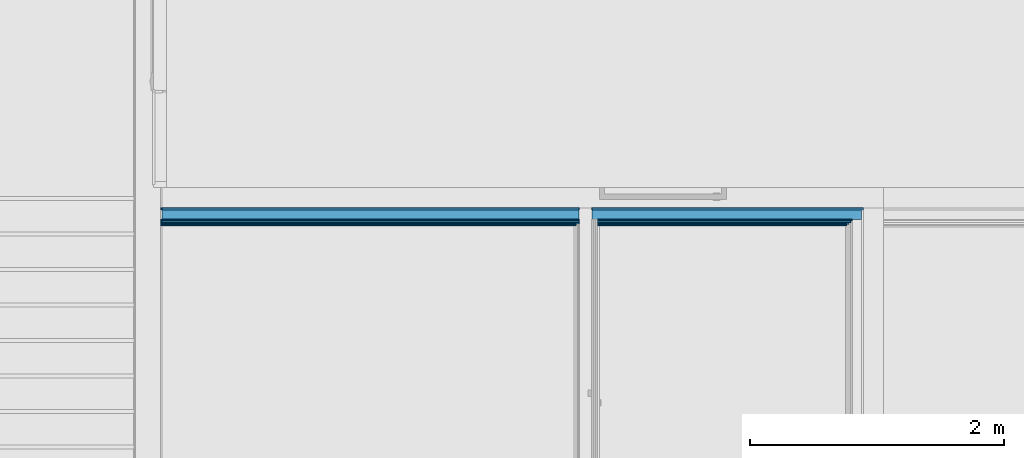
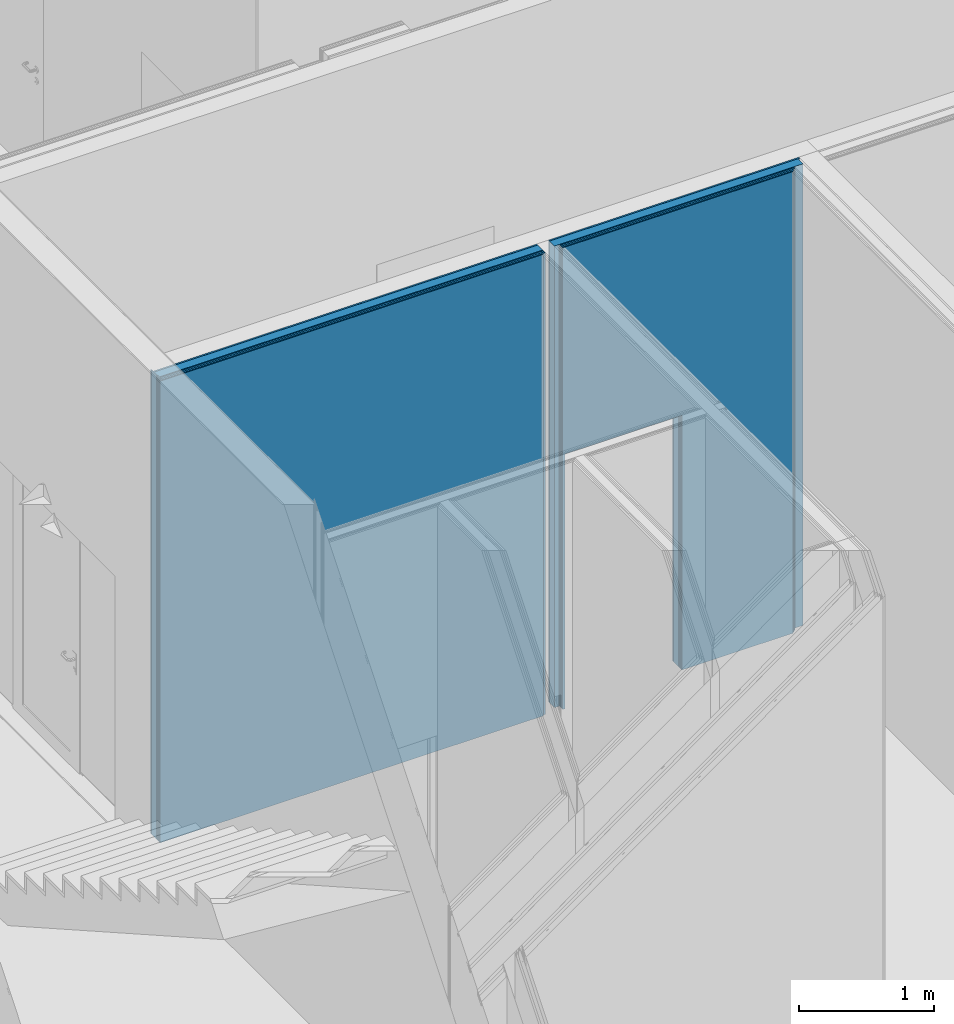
# One storey, part 155 of 260: 6 building element parts, 1 opening, 1 element without a shape of its own.
"""IFC2X3 building model written with IfcOpenShell, lengths in millimetres."""

from ifc_helpers import new_model, entity, si_unit, converted_unit, derived_unit, money_unit, direction, frame, origin_with_axes, place, context, subcontext, project, spatial, faceted_brep, material, type_object, element, aggregate, save


model = new_model("IFC2X3")

# Units and contexts
model_context = context("Model", 3, precision=0.01, world=origin_with_axes(), true_north=direction((0.0, 1.0)))
body_context = subcontext(model_context, "Body", "Model", "MODEL_VIEW")
ifc_project = project(units=[si_unit("LENGTHUNIT", "METRE", prefix="MILLI"), si_unit("AREAUNIT", "SQUARE_METRE"), si_unit("VOLUMEUNIT", "CUBIC_METRE"), converted_unit("PLANEANGLEUNIT", "DEGREE", entity("IfcPlaneAngleMeasure", 0.0174532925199), si_unit("PLANEANGLEUNIT", "RADIAN"), dimensions=[0, 0, 0, 0, 0, 0, 0]), money_unit("EUR"), converted_unit("TIMEUNIT", "Year", entity("IfcTimeMeasure", 31556926.0), si_unit("TIMEUNIT", "SECOND"), dimensions=[0, 0, 1, 0, 0, 0, 0]), si_unit("MASSUNIT", "GRAM", prefix="KILO"), si_unit("THERMODYNAMICTEMPERATUREUNIT", "DEGREE_CELSIUS"), si_unit("LUMINOUSINTENSITYUNIT", "LUMEN"), si_unit("ENERGYUNIT", "JOULE", prefix="MEGA"), derived_unit("THERMALCONDUCTANCEUNIT", [(si_unit("POWERUNIT", "WATT"), 1), (si_unit("LENGTHUNIT", "METRE"), -1), (si_unit("THERMODYNAMICTEMPERATUREUNIT", "KELVIN"), -1)]), derived_unit("SPECIFICHEATCAPACITYUNIT", [(si_unit("ENERGYUNIT", "JOULE"), 1), (si_unit("MASSUNIT", "GRAM", prefix="KILO"), -1), (si_unit("THERMODYNAMICTEMPERATUREUNIT", "KELVIN"), -1)]), derived_unit("MASSDENSITYUNIT", [(si_unit("MASSUNIT", "GRAM", prefix="KILO"), 1), (si_unit("VOLUMEUNIT", "CUBIC_METRE"), -1)])], contexts=[model_context])

# Site, building, storey
site_placement = place(None, origin_with_axes())
site = spatial("IfcSite", under=ifc_project, at=site_placement, Name="Kolde pst 67a", CompositionType="ELEMENT")
building_placement = place(site_placement, origin_with_axes())
building = spatial("IfcBuilding", under=site, at=building_placement, Name="Riigigümnaasium", CompositionType="ELEMENT")
storey_placement = place(building_placement, origin_with_axes())
storey = spatial("IfcBuildingStorey", under=building, at=storey_placement, Name="1. korrus", CompositionType="ELEMENT", Elevation=0.0)

# Wall, opening, building element parts
wall_type = type_object("IfcWallType", Name="SS-CLT-16/1_vill75+krohv 52 dB 300", PredefinedType="NOTDEFINED")
wall_placement = place(storey_placement, frame((3239.9403958, 56839.9979478, 0.0), z_axis=(0.0, 0.0, 1.0), x_axis=(1.0, 0.0, 0.0)))
wall = element("IfcWall", 1, at=wall_placement, inside=storey, type_object=wall_type, Name="Sisesein")
opening_placement = place(wall_placement, frame((3960.05833606, 0.0, 0.0), z_axis=(0.0, 0.0, 1.0), x_axis=(1.0, 0.0, 0.0)))
element("IfcOpeningElement", 2, at=opening_placement, cuts=wall, Name="Siseuks", context=body_context, shape_type="Brep", body=[
    faceted_brep([(-500.0, -300.0, 0.0), (-500.0, -300.0, 2300.0), (-500.0, 600.0, 2300.0), (-500.0, 600.0, 0.0), (500.0, -300.0, 0.0), (500.0, -300.0, 2300.0), (500.0, 600.0, 2300.0), (500.0, 600.0, 0.0)], [[[0, 1, 2, 3]], [[0, 4, 5, 1]], [[1, 5, 6, 2]], [[3, 2, 6, 7]], [[4, 0, 3, 7]], [[5, 4, 7, 6]]]),
])
ifc_material_1 = material(Name="_ÕHKVAHE")
building_element_part_1_placement = place(wall_placement, origin_with_axes())
building_element_part_1 = element("IfcBuildingElementPart", 3, at=building_element_part_1_placement, material=ifc_material_1, Name="_ÕHKVAHE", context=body_context, shape_type="Brep", body=[
    faceted_brep([(3460.05833606, -160.0, 2300.0), (3460.05833606, -160.0, 0.0), (3400.05833606, -160.0, 0.0), (3400.05833606, -160.0, 4170.0), (5540.05389015, -160.0, 4170.0), (5540.05389015, -160.0, 0.0), (4460.05833606, -160.0, 0.0), (4460.05833606, -160.0, 2300.0), (3460.05833606, -175.0, 2300.0), (3460.05833606, -175.0, 0.0), (3400.05833606, -175.0, 0.0), (3400.05833606, -175.0, 4170.0), (5540.05372343, -175.0, 4170.0), (5540.05372343, -175.0, 0.0), (4460.05833606, -175.0, 0.0), (4460.05833606, -175.0, 2300.0)], [[[0, 1, 2, 3, 4, 5, 6, 7]], [[1, 0, 8, 9]], [[1, 9, 10, 2]], [[3, 2, 10, 11]], [[4, 3, 11, 12]], [[12, 13, 5, 4]], [[14, 6, 5, 13]], [[7, 6, 14, 15]], [[0, 7, 15, 8]], [[15, 14, 13, 12, 11, 10, 9, 8]]]),
    faceted_brep([(10.0000613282, -160.0, 4190.0), (10.0000264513, -160.0, 4170.0), (3300.05833606, -160.0, 4170.0), (3300.05833606, -160.0, 0.0), (0.0, -160.0, 0.0), (0.0, -160.0, 4190.0), (10.0000612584, -175.0, 4190.0), (10.0000264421, -175.0, 4170.0), (3300.05833606, -175.0, 4170.0), (3300.05833606, -175.0, 0.0), (0.0, -175.0, 0.0), (0.0, -175.0, 4190.0)], [[[0, 1, 2, 3, 4, 5]], [[1, 0, 6, 7]], [[8, 2, 1, 7]], [[2, 8, 9, 3]], [[10, 4, 3, 9]], [[4, 10, 11, 5]], [[6, 0, 5, 11]], [[7, 6, 11, 10, 9, 8]]]),
])
ifc_material_2 = material(Name="_KARKASS - metallkarkass CW 75/50/06 ja UW 75/40/06, samm 600, vahel mineraalvill, helineeldetegur αw = 1.0,  ISOVER ACOUSTIC 75mm või samaväärne")
building_element_part_2_placement = place(wall_placement, origin_with_axes())
building_element_part_2 = element("IfcBuildingElementPart", 4, at=building_element_part_2_placement, material=ifc_material_2, Name="_KARKASS - metallkarkass CW 75/50/06 ja UW 75/40/06, samm 600, vahel mineraalvill, helineeldetegur αw = 1.0,  ISOVER ACOUSTIC 75mm või samaväärne", context=body_context, shape_type="Brep", body=[
    faceted_brep([(3460.05833606, -175.0, 2300.0), (3460.05833606, -175.0, 0.0), (3400.05833606, -175.0, 0.0), (3400.05833606, -175.0, 4170.0), (5525.05372343, -175.0, 4170.0), (5525.05372343, -175.0, 0.0), (4460.05833606, -175.0, 0.0), (4460.05833606, -175.0, 2300.0), (3460.05833606, -250.0, 2300.0), (3460.05833606, -250.0, 0.0), (3400.05833606, -250.0, 0.0), (3400.05833606, -250.0, 4170.0), (5525.05288982, -250.0, 4170.0), (5525.05288982, -250.0, 0.0), (4460.05833606, -250.0, 0.0), (4460.05833606, -250.0, 2300.0)], [[[0, 1, 2, 3, 4, 5, 6, 7]], [[1, 0, 8, 9]], [[1, 9, 10, 2]], [[3, 2, 10, 11]], [[4, 3, 11, 12]], [[12, 13, 5, 4]], [[14, 6, 5, 13]], [[7, 6, 14, 15]], [[0, 7, 15, 8]], [[15, 14, 13, 12, 11, 10, 9, 8]]]),
    faceted_brep([(10.0000612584, -175.0, 4190.0), (10.0000264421, -175.0, 4170.0), (3300.05833606, -175.0, 4170.0), (3300.05833606, -175.0, 0.0), (0.0, -175.0, 0.0), (0.0, -175.0, 4190.0), (10.0000609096, -250.0, 4190.0), (10.0000263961, -250.0, 4170.0), (3300.05833606, -250.0, 4170.0), (3300.05833606, -250.0, 0.0), (0.0, -250.0, 0.0), (0.0, -250.0, 4190.0)], [[[0, 1, 2, 3, 4, 5]], [[1, 0, 6, 7]], [[8, 2, 1, 7]], [[2, 8, 9, 3]], [[10, 4, 3, 9]], [[4, 10, 11, 5]], [[6, 0, 5, 11]], [[7, 6, 11, 10, 9, 8]]]),
])
ifc_material_3 = material(Name="_PLAATMATERJAL - OSB3 plaat")
building_element_part_3_placement = place(wall_placement, origin_with_axes())
building_element_part_3 = element("IfcBuildingElementPart", 5, at=building_element_part_3_placement, material=ifc_material_3, Name="_PLAATMATERJAL - OSB3 plaat", context=body_context, shape_type="Brep", body=[
    faceted_brep([(3460.05833606, -250.0, 2300.0), (3460.05833606, -250.0, 0.0), (3440.05833606, -250.0, 0.0), (3440.05833606, -250.0, 4170.0), (5450.05288982, -250.0, 4170.0), (5450.05288982, -250.0, 0.0), (4460.05833606, -250.0, 0.0), (4460.05833606, -250.0, 2300.0), (3460.05833606, -260.0, 2300.0), (3460.05833606, -260.0, 0.0), (3440.05833606, -260.0, 0.0), (3440.05833606, -260.0, 4170.0), (5450.05277867, -260.0, 4170.0), (5450.05277867, -260.0, 0.0), (4460.05833606, -260.0, 0.0), (4460.05833606, -260.0, 2300.0)], [[[0, 1, 2, 3, 4, 5, 6, 7]], [[1, 0, 8, 9]], [[1, 9, 10, 2]], [[3, 2, 10, 11]], [[4, 3, 11, 12]], [[12, 13, 5, 4]], [[14, 6, 5, 13]], [[7, 6, 14, 15]], [[0, 7, 15, 8]], [[15, 14, 13, 12, 11, 10, 9, 8]]]),
    faceted_brep([(10.0000609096, -250.0, 4190.0), (10.0000263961, -250.0, 4170.0), (3300.05833606, -250.0, 4170.0), (3300.05833606, -250.0, 0.0), (0.0, -250.0, 0.0), (0.0, -250.0, 4190.0), (10.0000608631, -260.0, 4190.0), (10.0000263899, -260.0, 4170.0), (3300.05833606, -260.0, 4170.0), (3300.05833606, -260.0, 0.0), (0.0, -260.0, 0.0), (0.0, -260.0, 4190.0)], [[[0, 1, 2, 3, 4, 5]], [[1, 0, 6, 7]], [[8, 2, 1, 7]], [[2, 8, 9, 3]], [[10, 4, 3, 9]], [[4, 10, 11, 5]], [[6, 0, 5, 11]], [[7, 6, 11, 10, 9, 8]]]),
])
ifc_material_4 = material(Name="_PLAATMATERJAL - tuletõkkekipsplaat, Knauf Red GKF või samaväärne")
building_element_part_4_placement = place(wall_placement, origin_with_axes())
building_element_part_4 = element("IfcBuildingElementPart", 6, at=building_element_part_4_placement, material=ifc_material_4, Name="_PLAATMATERJAL - tuletõkkekipsplaat, Knauf Red GKF või samaväärne", context=body_context, shape_type="Brep", body=[
    faceted_brep([(3460.05833606, -260.0, 2300.0), (3460.05833606, -260.0, 0.0), (3440.05833606, -260.0, 0.0), (3440.05833606, -260.0, 4170.0), (5440.05277867, -260.0, 4170.0), (5440.05277867, -260.0, 0.0), (4460.05833606, -260.0, 0.0), (4460.05833606, -260.0, 2300.0), (3460.05833606, -275.0, 2300.0), (3460.05833606, -275.0, 0.0), (3440.05833606, -275.0, 0.0), (3440.05833606, -275.0, 4170.0), (5440.05261195, -275.0, 4170.0), (5440.05261195, -275.0, 0.0), (4460.05833606, -275.0, 0.0), (4460.05833606, -275.0, 2300.0)], [[[0, 1, 2, 3, 4, 5, 6, 7]], [[1, 0, 8, 9]], [[1, 9, 10, 2]], [[3, 2, 10, 11]], [[4, 3, 11, 12]], [[12, 13, 5, 4]], [[14, 6, 5, 13]], [[7, 6, 14, 15]], [[0, 7, 15, 8]], [[15, 14, 13, 12, 11, 10, 9, 8]]]),
    faceted_brep([(10.0000608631, -260.0, 4190.0), (10.0000263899, -260.0, 4170.0), (3300.05833606, -260.0, 4170.0), (3300.05833606, -260.0, 0.0), (0.0, -260.0, 0.0), (0.0, -260.0, 4190.0), (10.0000607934, -275.0, 4190.0), (10.0000263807, -275.0, 4170.0), (3300.05833606, -275.0, 4170.0), (3300.05833606, -275.0, 0.0), (0.0, -275.0, 0.0), (0.0, -275.0, 4190.0)], [[[0, 1, 2, 3, 4, 5]], [[1, 0, 6, 7]], [[8, 2, 1, 7]], [[2, 8, 9, 3]], [[10, 4, 3, 9]], [[4, 10, 11, 5]], [[6, 0, 5, 11]], [[7, 6, 11, 10, 9, 8]]]),
])
building_element_part_5_placement = place(wall_placement, origin_with_axes())
building_element_part_5 = element("IfcBuildingElementPart", 7, at=building_element_part_5_placement, material=ifc_material_4, Name="_PLAATMATERJAL - tuletõkkekipsplaat, Knauf Red GKF või samaväärne", context=body_context, shape_type="Brep", body=[
    faceted_brep([(3460.05833606, -275.0, 2300.0), (3460.05833606, -275.0, 0.0), (3440.05833606, -275.0, 0.0), (3440.05833606, -275.0, 4170.0), (5425.05261195, -275.0, 4170.0), (5425.05261195, -275.0, 0.0), (4460.05833606, -275.0, 0.0), (4460.05833606, -275.0, 2300.0), (3460.05833606, -290.0, 2300.0), (3460.05833606, -290.0, 0.0), (3440.05833606, -290.0, 0.0), (3440.05833606, -290.0, 4170.0), (5425.05244522, -290.0, 4170.0), (5425.05244522, -290.0, 0.0), (4460.05833606, -290.0, 0.0), (4460.05833606, -290.0, 2300.0)], [[[0, 1, 2, 3, 4, 5, 6, 7]], [[1, 0, 8, 9]], [[1, 9, 10, 2]], [[3, 2, 10, 11]], [[4, 3, 11, 12]], [[12, 13, 5, 4]], [[14, 6, 5, 13]], [[7, 6, 14, 15]], [[0, 7, 15, 8]], [[15, 14, 13, 12, 11, 10, 9, 8]]]),
    faceted_brep([(10.0000607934, -275.0, 4190.0), (10.0000263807, -275.0, 4170.0), (3300.05833606, -275.0, 4170.0), (3300.05833606, -275.0, 0.0), (0.0, -275.0, 0.0), (0.0, -275.0, 4190.0), (10.0000607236, -290.0, 4190.0), (10.0000263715, -290.0, 4170.0), (3300.05833606, -290.0, 4170.0), (3300.05833606, -290.0, 0.0), (0.0, -290.0, 0.0), (0.0, -290.0, 4190.0)], [[[0, 1, 2, 3, 4, 5]], [[1, 0, 6, 7]], [[8, 2, 1, 7]], [[2, 8, 9, 3]], [[10, 4, 3, 9]], [[4, 10, 11, 5]], [[6, 0, 5, 11]], [[7, 6, 11, 10, 9, 8]]]),
])
ifc_material_5 = material(Name="_VIIMISTLUSKIHT - viimistlus vastavalt SA osale")
building_element_part_6_placement = place(wall_placement, origin_with_axes())
building_element_part_6 = element("IfcBuildingElementPart", 8, at=building_element_part_6_placement, material=ifc_material_5, Name="_VIIMISTLUSKIHT - viimistlus vastavalt SA osale", context=body_context, shape_type="Brep", body=[
    faceted_brep([(3460.05833606, -290.0, 2300.0), (3460.05833606, -290.0, 0.0), (3440.05833606, -290.0, 0.0), (3440.05833606, -290.0, 4170.0), (5410.05244522, -290.0, 4170.0), (5410.05244522, -290.0, 0.0), (4460.05833606, -290.0, 0.0), (4460.05833606, -290.0, 2300.0), (3460.05833606, -300.0, 2300.0), (3460.05833606, -300.0, 0.0), (3440.05833606, -300.0, 0.0), (3440.05833606, -300.0, 4170.0), (5410.05233407, -300.0, 4170.0), (5410.05233407, -300.0, 0.0), (4460.05833606, -300.0, 0.0), (4460.05833606, -300.0, 2300.0)], [[[0, 1, 2, 3, 4, 5, 6, 7]], [[1, 0, 8, 9]], [[1, 9, 10, 2]], [[3, 2, 10, 11]], [[4, 3, 11, 12]], [[12, 13, 5, 4]], [[14, 6, 5, 13]], [[7, 6, 14, 15]], [[0, 7, 15, 8]], [[15, 14, 13, 12, 11, 10, 9, 8]]]),
    faceted_brep([(10.0000607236, -290.0, 4190.0), (10.0000263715, -290.0, 4170.0), (3275.05833606, -290.0, 4170.0), (3275.05833606, -290.0, 0.0), (0.0, -290.0, 0.0), (0.0, -290.0, 4190.0), (10.0000606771, -300.0, 4190.0), (10.0000263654, -300.0, 4170.0), (3275.05833606, -300.0, 4170.0), (3275.05833606, -300.0, 0.0), (0.0, -300.0, 0.0), (0.0, -300.0, 4190.0)], [[[0, 1, 2, 3, 4, 5]], [[1, 0, 6, 7]], [[8, 2, 1, 7]], [[2, 8, 9, 3]], [[10, 4, 3, 9]], [[4, 10, 11, 5]], [[6, 0, 5, 11]], [[7, 6, 11, 10, 9, 8]]]),
])
aggregate(wall, [building_element_part_1, building_element_part_2, building_element_part_3, building_element_part_4, building_element_part_5, building_element_part_6])

save(model, "model.ifc")
